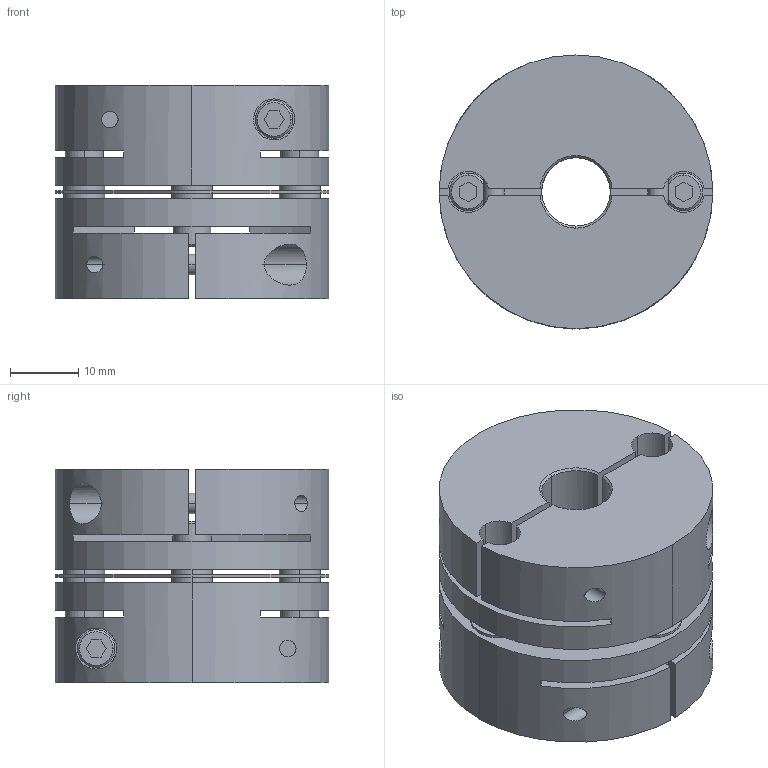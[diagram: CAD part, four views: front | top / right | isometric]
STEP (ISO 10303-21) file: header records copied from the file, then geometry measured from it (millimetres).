
FILE_DESCRIPTION((''),'2;1');
FILE_NAME('LAS-40C-10×20.stp','2011-08-11T08:55:51',(''),(''),'AutoCAD STEP 2000i','AutoCAD 2000i',', , ');
FILE_SCHEMA(('CONFIG_CONTROL_DESIGN'));
Length unit declared in the file: millimetre
Products named in the file (6): LAS-40C-10×15; 忣兜1; LA-4002-D15; LA-4002-D10-1; LA-4002-D10; LAS40-ITA
Assembly tree (5 placements, depth 2):
  LAS-40C-10×15
    忣兜1
    LA-4002-D15
    LA-4002-D10-1
    LA-4002-D10
    LAS40-ITA
Bounding box: 40 x 40 x 31.2 mm (x, y, z)
Volume: 28463.3 mm3; surface area: 15036.5 mm2
Topology: 1 solids, 1 shells, 236 faces, 624 edges, 408 vertices
Faces by surface type: plane 112, cylinder 96, cone 28
Entity records: 8177 total; most frequent: CARTESIAN_POINT 1970, DIRECTION 1304, ORIENTED_EDGE 1248, EDGE_CURVE 624, AXIS2_PLACEMENT_3D 478, VERTEX_POINT 408, VECTOR 348, LINE 348
